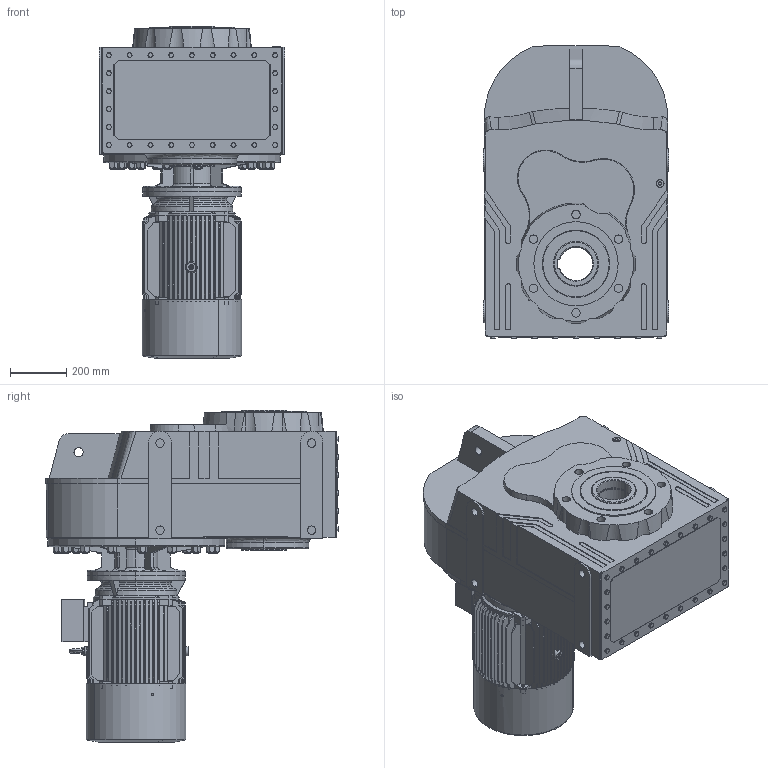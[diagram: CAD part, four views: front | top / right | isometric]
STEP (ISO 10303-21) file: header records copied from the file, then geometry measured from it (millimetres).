
FILE_DESCRIPTION (( 'STEP AP203' ), '1' );
FILE_NAME ('DV972-DV973-M3-180M.STEP', '2019-07-23T11:19:33', ( '' ), ( '' ), 'SwSTEP 2.0', 'SolidWorks 2012', '' );
FILE_SCHEMA (( 'CONFIG_CONTROL_DESIGN' ));
Length unit declared in the file: millimetre
Products named in the file (12): DV972-DV973-M3-180M; Y2-180-4.6.8+ª-¯ª­-È®+_-++ñ; M3-180M-FF-B5; Y2-180MB5+À+¿_-++ñ; Eyebolts GB_GB_FASTENER_SCREWS_FRS M12_1; Y2-180C++A+¦-¯ª¦+¦_-++ñ; Y2-180-4.6.8-ª+---®+_-++ñ; Y2-180+¦i-_-++ñ; DN_97_3_0_A-B18_B5_ML24A_0_0_0_0_0_0_0_0_0_0_0_0_M1; 93180B5_Varsayìlan; ML24A_Varsayìlan; D973_Varsayìlan
Assembly tree (11 placements, depth 3):
  DV972-DV973-M3-180M
    DN_97_3_0_A-B18_B5_ML24A_0_0_0_0_0_0_0_0_0_0_0_0_M1
      D973_Varsayìlan
      93180B5_Varsayìlan
      ML24A_Varsayìlan
    M3-180M-FF-B5
      Y2-180C++A+¦-¯ª¦+¦_-++ñ
      Y2-180+¦i-_-++ñ
      Y2-180-4.6.8-ª+---®+_-++ñ
      Eyebolts GB_GB_FASTENER_SCREWS_FRS M12_1
      Y2-180MB5+À+¿_-++ñ
      Y2-180-4.6.8+ª-¯ª­-È®+_-++ñ
Bounding box: 660 x 1043.11 x 1182.5 mm (x, y, z)
Volume: 249457829.9 mm3; surface area: 7258468.9 mm2
Topology: 10 solids, 11 shells, 2459 faces, 6071 edges, 3786 vertices
Faces by surface type: plane 1014, cone 808, cylinder 551, bspline 50, torus 36
Entity records: 83086 total; most frequent: CARTESIAN_POINT 24632, ORIENTED_EDGE 12138, DIRECTION 11736, EDGE_CURVE 6069, AXIS2_PLACEMENT_3D 4592, VERTEX_POINT 3786, EDGE_LOOP 2687, LINE 2552
